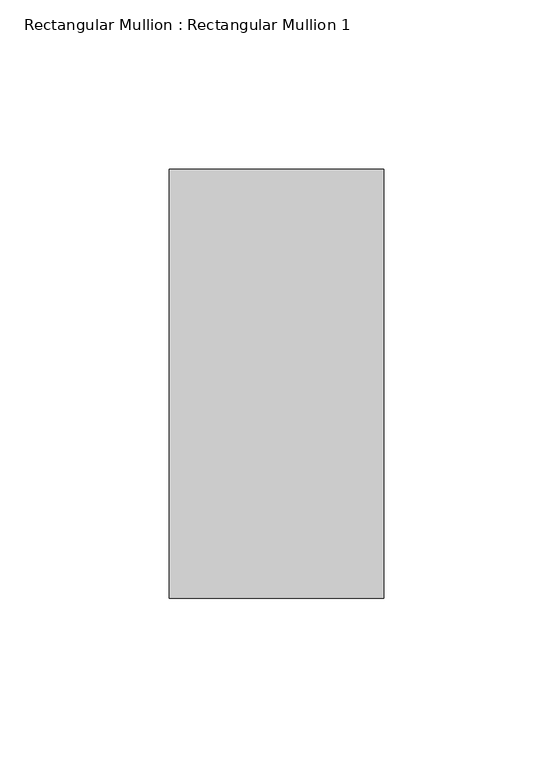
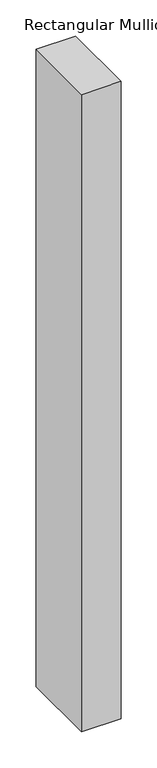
"""IFC4 building model written with IfcOpenShell, lengths in millimetres: member geometry, Rectangular Mullion : Rectangular Mullion 1."""

from ifc_helpers import new_model, si_unit, frame, origin, place, context, project, spatial, polyline, outline, extrude, source, transform, mapped, element, save


def rectangular_mullion_rectangular_mullion_1_8247c789(model_context):
    return source(origin(), model_context, "Body", "SweptSolid", [
        extrude(outline(polyline([(31.75, 63.5), (31.75, -63.5), (-31.75, -63.5), (-31.75, 63.5), (31.75, 63.5)])), frame((0.0, 0.0, -1079.6395219), z_axis=(0.0, 0.0, 1.0), x_axis=(1.0, 0.0, 0.0)), (0.0, 0.0, 1.0), 1079.6395219),
    ])


if __name__ == "__main__":
    model = new_model("IFC4")
    model_context = context("Model", 3, world=origin())
    ifc_project = project(units=[si_unit("LENGTHUNIT", "METRE", prefix="MILLI")], contexts=[model_context])
    site = spatial("IfcSite", under=ifc_project)
    building = spatial("IfcBuilding", under=site)
    placement = place(None, origin())
    rectangular_mullion_rectangular_mullion_1_shape = rectangular_mullion_rectangular_mullion_1_8247c789(model_context)
    element("IfcMember", 1, ObjectType="Rectangular Mullion : Rectangular Mullion 1", at=placement, inside=building, context=model_context, shape_type="MappedRepresentation", body=[
        mapped(rectangular_mullion_rectangular_mullion_1_shape, transform((0.0, 0.0, 0.0), x_axis=(1.0, 0.0, 0.0), y_axis=(0.0, 1.0, 0.0), z_axis=(0.0, 0.0, 1.0))),
    ])
    save(model, "model.ifc")
